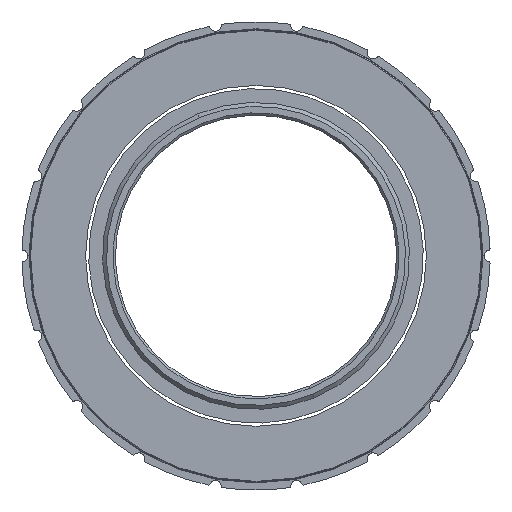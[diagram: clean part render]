
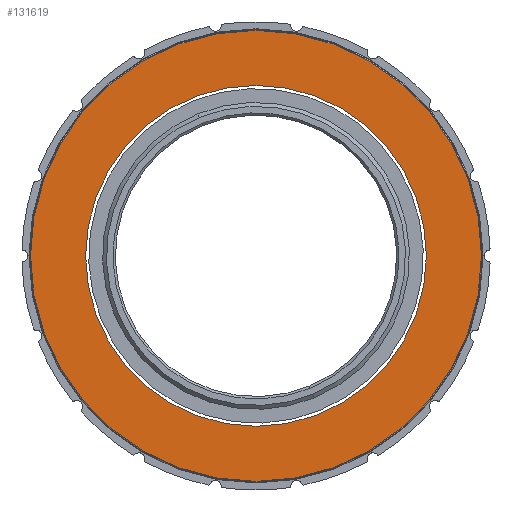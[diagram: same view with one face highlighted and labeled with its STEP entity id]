
A CAD part, left-side view. The second image highlights one B-rep face of the part: STEP entity #131619.
In plain terms, the highlighted planar face has unit normal (-1, 0, 0).
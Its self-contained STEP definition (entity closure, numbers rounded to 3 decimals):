
#2775 = DIRECTION ( 'NONE',  ( 0., 0., -1. ) ) ;
#3900 = PLANE ( 'NONE',  #104792 ) ;
#5826 = EDGE_CURVE ( 'NONE', #140887, #10491, #81893, .T. ) ;
#10491 = VERTEX_POINT ( 'NONE', #13134 ) ;
#13134 = CARTESIAN_POINT ( 'NONE',  ( -14.95, 0., -28.85 ) ) ;
#13336 = AXIS2_PLACEMENT_3D ( 'NONE', #64547, #135781, #2775 ) ;
#14071 = DIRECTION ( 'NONE',  ( 0., 0., 1. ) ) ;
#14173 = CARTESIAN_POINT ( 'NONE',  ( -14.95, 0., 0. ) ) ;
#15077 = CARTESIAN_POINT ( 'NONE',  ( -14.95, 0., 21.8 ) ) ;
#15622 = DIRECTION ( 'NONE',  ( -1., 0., 0. ) ) ;
#15661 = AXIS2_PLACEMENT_3D ( 'NONE', #14173, #37674, #36922 ) ;
#19532 = VERTEX_POINT ( 'NONE', #44205 ) ;
#22656 = EDGE_CURVE ( 'NONE', #19532, #75849, #85710, .T. ) ;
#36922 = DIRECTION ( 'NONE',  ( 0., 0., -1. ) ) ;
#37674 = DIRECTION ( 'NONE',  ( 1., 0., 0. ) ) ;
#42519 = ORIENTED_EDGE ( 'NONE', *, *, #125467, .T. ) ;
#44205 = CARTESIAN_POINT ( 'NONE',  ( -14.95, 0., -21.8 ) ) ;
#50090 = CARTESIAN_POINT ( 'NONE',  ( -14.95, 28.95, 0. ) ) ;
#54423 = AXIS2_PLACEMENT_3D ( 'NONE', #57321, #92577, #58879 ) ;
#54686 = EDGE_LOOP ( 'NONE', ( #106090, #55609 ) ) ;
#55609 = ORIENTED_EDGE ( 'NONE', *, *, #107241, .T. ) ;
#56096 = DIRECTION ( 'NONE',  ( -1., 0., 0. ) ) ;
#57321 = CARTESIAN_POINT ( 'NONE',  ( -14.95, 0., 0. ) ) ;
#58332 = CIRCLE ( 'NONE', #125813, 28.85 ) ;
#58879 = DIRECTION ( 'NONE',  ( 0., 0., 1. ) ) ;
#64547 = CARTESIAN_POINT ( 'NONE',  ( -14.95, 0., 0. ) ) ;
#72473 = ORIENTED_EDGE ( 'NONE', *, *, #22656, .T. ) ;
#75849 = VERTEX_POINT ( 'NONE', #15077 ) ;
#81893 = CIRCLE ( 'NONE', #54423, 28.85 ) ;
#85710 = CIRCLE ( 'NONE', #15661, 21.8 ) ;
#85737 = CIRCLE ( 'NONE', #13336, 21.8 ) ;
#88402 = FACE_OUTER_BOUND ( 'NONE', #54686, .T. ) ;
#92124 = DIRECTION ( 'NONE',  ( 0., 0., 1. ) ) ;
#92577 = DIRECTION ( 'NONE',  ( -1., 0., 0. ) ) ;
#94438 = CARTESIAN_POINT ( 'NONE',  ( -14.95, 0., 0. ) ) ;
#104792 = AXIS2_PLACEMENT_3D ( 'NONE', #50090, #15622, #14071 ) ;
#106090 = ORIENTED_EDGE ( 'NONE', *, *, #5826, .T. ) ;
#107241 = EDGE_CURVE ( 'NONE', #10491, #140887, #58332, .T. ) ;
#121285 = FACE_BOUND ( 'NONE', #124796, .T. ) ;
#124796 = EDGE_LOOP ( 'NONE', ( #72473, #42519 ) ) ;
#125467 = EDGE_CURVE ( 'NONE', #75849, #19532, #85737, .T. ) ;
#125813 = AXIS2_PLACEMENT_3D ( 'NONE', #94438, #56096, #92124 ) ;
#131619 = ADVANCED_FACE ( 'NONE', ( #88402, #121285 ), #3900, .T. ) ;
#135781 = DIRECTION ( 'NONE',  ( 1., 0., 0. ) ) ;
#140887 = VERTEX_POINT ( 'NONE', #153379 ) ;
#153379 = CARTESIAN_POINT ( 'NONE',  ( -14.95, 0., 28.85 ) ) ;
